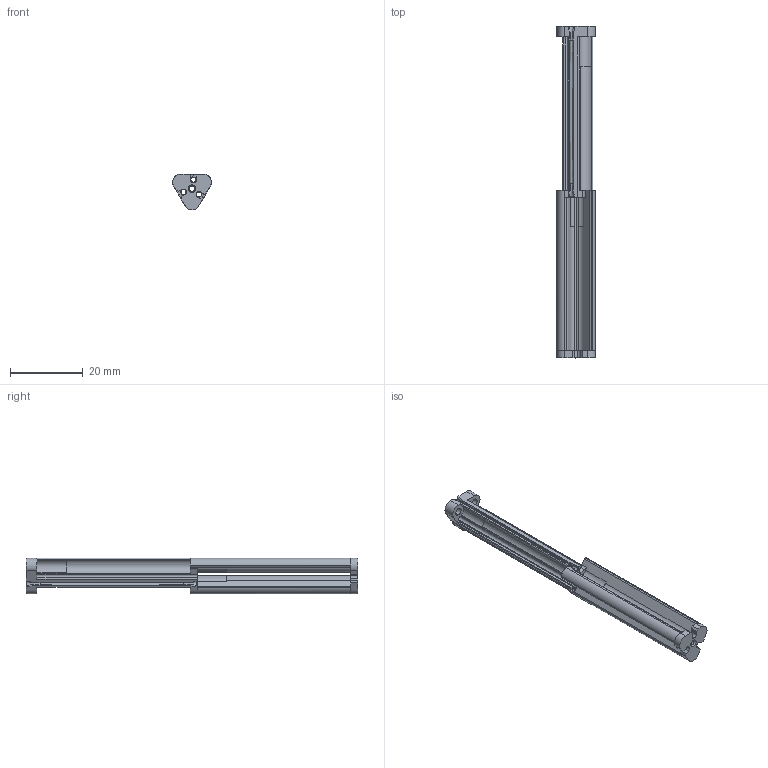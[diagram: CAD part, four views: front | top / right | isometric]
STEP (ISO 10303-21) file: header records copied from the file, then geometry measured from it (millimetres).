
FILE_DESCRIPTION (( 'STEP AP214' ), '1' );
FILE_NAME ('TRL-0034-B.STEP', '2021-07-01T18:44:16', ( '' ), ( '' ), 'SwSTEP 2.0', 'SolidWorks 2016', '' );
FILE_SCHEMA (( 'AUTOMOTIVE_DESIGN' ));
Length unit declared in the file: millimetre
Products named in the file (1): TRL-0034-B
Bounding box: 10.6 x 91 x 9.77 mm (x, y, z)
Volume: 2226.6 mm3; surface area: 4078.3 mm2
Topology: 1 solids, 1 shells, 231 faces, 641 edges, 408 vertices
Faces by surface type: cylinder 80, plane 77, bspline 72, cone 2
Entity records: 13683 total; most frequent: CARTESIAN_POINT 8225, ORIENTED_EDGE 1282, DIRECTION 923, EDGE_CURVE 641, VERTEX_POINT 408, AXIS2_PLACEMENT_3D 333, LINE 257, VECTOR 257
